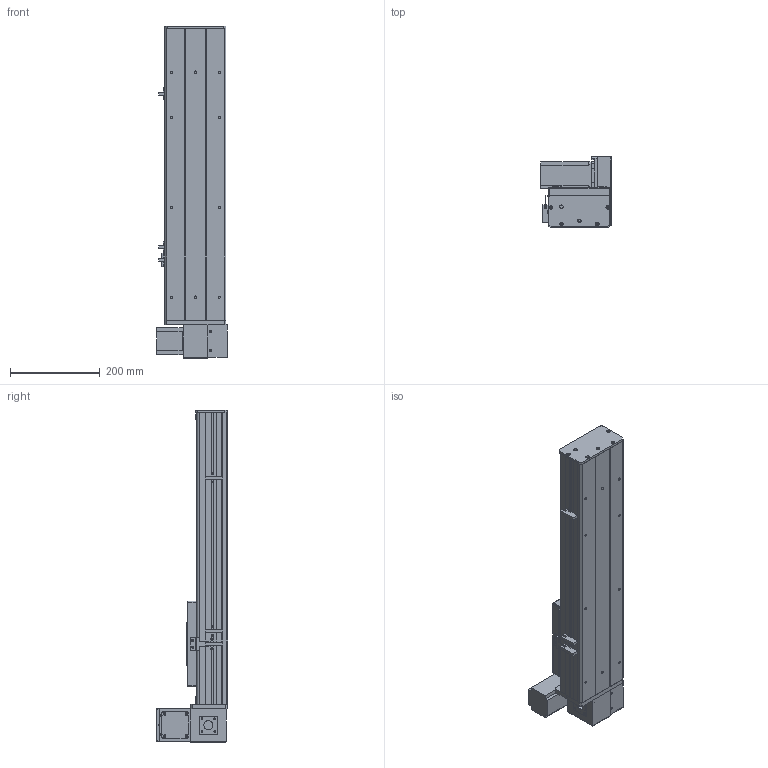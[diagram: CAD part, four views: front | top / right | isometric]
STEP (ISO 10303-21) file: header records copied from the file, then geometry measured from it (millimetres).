
FILE_DESCRIPTION (( 'STEP AP203' ), '1' );
FILE_NAME ('Y135CB-D90-S350-UL-P400W.STEP', '2020-02-18T07:04:15', ( '微软用户' ), ( '微软中国' ), 'SwSTEP 2.0', 'SolidWorks 2017', '' );
FILE_SCHEMA (( 'CONFIG_CONTROL_DESIGN' ));
Length unit declared in the file: millimetre
Products named in the file (18): Y100-135俋离換覜ん--; 35CB---喘謫眊楊擘啣; Y135C-陔俋离換覜結え-; 0B-埴倛裔啣; 5C--俋欶; 0B-源倛裔啣; C-雄赽釱--; 0B-萇儂楊擘啣; Y10B-耜蚾蟀諉啣----; san松下电机400不带刹车----; 00B-俋欶BM--; 5CB --掛极耜裔啣-; Y10B--々湍喘謫眊--666; C-詩湍揤踡え-陔; Y135CB-耜裔; Y135CB-D90-S350-UL-P400W; 135CB--詩湍-CE; 135CB---遴掛极.-
Assembly tree (21 placements, depth 2):
  Y135CB-D90-S350-UL-P400W
    Y135CB-耜裔
    135CB---遴掛极.-
    35CB---喘謫眊楊擘啣
    0B-埴倛裔啣
    0B-源倛裔啣
    0B-萇儂楊擘啣
    san松下电机400不带刹车----
    5CB --掛极耜裔啣-  x2
    C-詩湍揤踡え-陔  x2
    135CB--詩湍-CE
    Y100-135俋离換覜ん--  x3
    Y135C-陔俋离換覜結え-
    5C--俋欶
    C-雄赽釱--
    Y10B-耜蚾蟀諉啣----
    00B-俋欶BM--
    Y10B--々湍喘謫眊--666
Bounding box: 157 x 158.7 x 738 mm (x, y, z)
Volume: 2698403.4 mm3; surface area: 1038606.4 mm2
Topology: 21 solids, 21 shells, 933 faces, 2473 edges, 1638 vertices
Faces by surface type: cylinder 461, plane 456, cone 16
Entity records: 28743 total; most frequent: DIRECTION 4773, CARTESIAN_POINT 4680, ORIENTED_EDGE 4422, EDGE_CURVE 2211, AXIS2_PLACEMENT_3D 1735, VERTEX_POINT 1466, VECTOR 1303, LINE 1303
